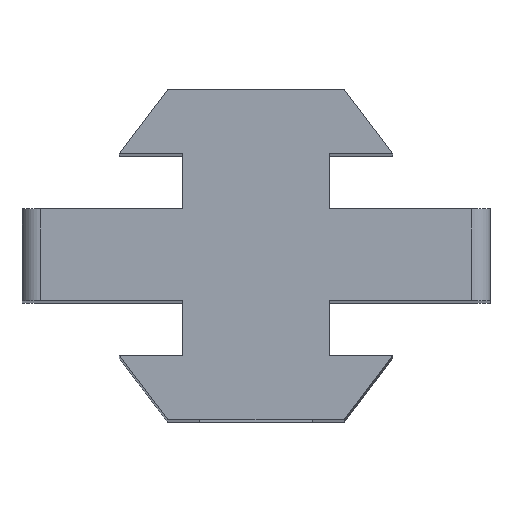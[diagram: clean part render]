
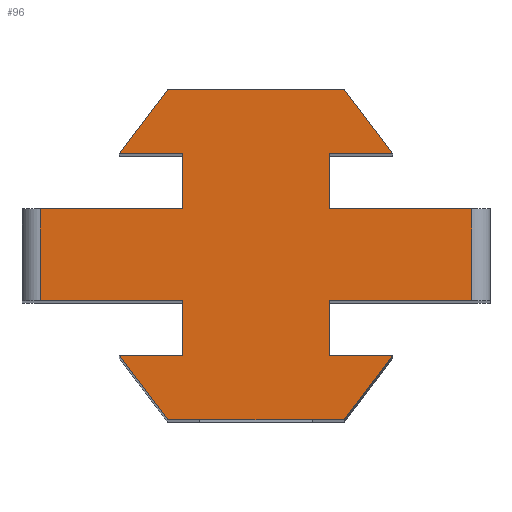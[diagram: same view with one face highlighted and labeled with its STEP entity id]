
A CAD part, top view. The second image highlights one B-rep face of the part: STEP entity #96.
In plain terms, the highlighted planar face has unit normal (0, 0, 1).
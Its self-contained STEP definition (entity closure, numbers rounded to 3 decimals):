
#12 = VECTOR ( 'NONE', #1242, 1000. ) ;
#19 = CARTESIAN_POINT ( 'NONE',  ( 7.45, 5.5, 40. ) ) ;
#21 = LINE ( 'NONE', #453, #1348 ) ;
#26 = EDGE_CURVE ( 'NONE', #768, #1747, #753, .T. ) ;
#30 = LINE ( 'NONE', #833, #1155 ) ;
#33 = DIRECTION ( 'NONE',  ( -1., 0., 0. ) ) ;
#37 = EDGE_CURVE ( 'NONE', #1712, #416, #1532, .T. ) ;
#55 = CARTESIAN_POINT ( 'NONE',  ( -7.45, 5.5, 40. ) ) ;
#69 = LINE ( 'NONE', #1160, #1058 ) ;
#73 = AXIS2_PLACEMENT_3D ( 'NONE', #1281, #641, #1881 ) ;
#74 = CARTESIAN_POINT ( 'NONE',  ( 7.45, -5.5, 40. ) ) ;
#96 = ADVANCED_FACE ( 'NONE', ( #1758 ), #497, .F. ) ;
#105 = CARTESIAN_POINT ( 'NONE',  ( 4., -5.5, 40. ) ) ;
#114 = VECTOR ( 'NONE', #386, 1000. ) ;
#125 = VERTEX_POINT ( 'NONE', #969 ) ;
#136 = VECTOR ( 'NONE', #1258, 1000. ) ;
#146 = CARTESIAN_POINT ( 'NONE',  ( -4., -2.5, 40. ) ) ;
#154 = EDGE_CURVE ( 'NONE', #920, #685, #1580, .T. ) ;
#172 = VECTOR ( 'NONE', #1413, 1000. ) ;
#191 = CARTESIAN_POINT ( 'NONE',  ( -4., 5.5, 40. ) ) ;
#193 = CARTESIAN_POINT ( 'NONE',  ( 4., 5.5, 40. ) ) ;
#200 = EDGE_CURVE ( 'NONE', #1941, #1712, #1094, .T. ) ;
#202 = DIRECTION ( 'NONE',  ( -0.604, -0.797, 0. ) ) ;
#216 = CARTESIAN_POINT ( 'NONE',  ( -11.75, -2.5, 40. ) ) ;
#217 = ORIENTED_EDGE ( 'NONE', *, *, #26, .T. ) ;
#228 = EDGE_LOOP ( 'NONE', ( #1205, #1114, #290, #1507, #279, #1791, #361, #1970, #739, #1283, #1134, #217, #829, #1631, #480, #1656, #1702, #410, #870, #1775 ) ) ;
#279 = ORIENTED_EDGE ( 'NONE', *, *, #582, .T. ) ;
#290 = ORIENTED_EDGE ( 'NONE', *, *, #1178, .T. ) ;
#300 = CARTESIAN_POINT ( 'NONE',  ( 4., 5.5, 40. ) ) ;
#332 = VECTOR ( 'NONE', #369, 1000. ) ;
#343 = CARTESIAN_POINT ( 'NONE',  ( 11.75, 2.5, 40. ) ) ;
#361 = ORIENTED_EDGE ( 'NONE', *, *, #37, .T. ) ;
#366 = CARTESIAN_POINT ( 'NONE',  ( -4.8, -9., 40. ) ) ;
#367 = EDGE_CURVE ( 'NONE', #1062, #1866, #1688, .T. ) ;
#369 = DIRECTION ( 'NONE',  ( 0., -1., 0. ) ) ;
#370 = CARTESIAN_POINT ( 'NONE',  ( 4., -2.5, 40. ) ) ;
#386 = DIRECTION ( 'NONE',  ( 1., 0., 0. ) ) ;
#410 = ORIENTED_EDGE ( 'NONE', *, *, #367, .T. ) ;
#416 = VERTEX_POINT ( 'NONE', #1200 ) ;
#420 = VERTEX_POINT ( 'NONE', #459 ) ;
#429 = DIRECTION ( 'NONE',  ( 0.604, 0.797, 0. ) ) ;
#439 = CARTESIAN_POINT ( 'NONE',  ( 7.45, 5.5, 40. ) ) ;
#453 = CARTESIAN_POINT ( 'NONE',  ( 11.75, 0., 40. ) ) ;
#459 = CARTESIAN_POINT ( 'NONE',  ( -4.8, -9., 40. ) ) ;
#476 = CARTESIAN_POINT ( 'NONE',  ( 11.75, -2.5, 40. ) ) ;
#480 = ORIENTED_EDGE ( 'NONE', *, *, #1860, .T. ) ;
#493 = VECTOR ( 'NONE', #1228, 1000. ) ;
#497 = PLANE ( 'NONE',  #73 ) ;
#501 = VERTEX_POINT ( 'NONE', #1602 ) ;
#517 = EDGE_CURVE ( 'NONE', #1156, #420, #1127, .T. ) ;
#544 = EDGE_CURVE ( 'NONE', #501, #1067, #1289, .T. ) ;
#550 = LINE ( 'NONE', #74, #1672 ) ;
#582 = EDGE_CURVE ( 'NONE', #1820, #1941, #1424, .T. ) ;
#592 = DIRECTION ( 'NONE',  ( -1., 0., 0. ) ) ;
#611 = LINE ( 'NONE', #1372, #12 ) ;
#614 = CARTESIAN_POINT ( 'NONE',  ( -11.75, 0., 40. ) ) ;
#619 = CARTESIAN_POINT ( 'NONE',  ( 4.8, -9., 40. ) ) ;
#621 = DIRECTION ( 'NONE',  ( 0., -1., 0. ) ) ;
#641 = DIRECTION ( 'NONE',  ( 0., 0., -1. ) ) ;
#642 = DIRECTION ( 'NONE',  ( 0., 1., 0. ) ) ;
#685 = VERTEX_POINT ( 'NONE', #1362 ) ;
#717 = LINE ( 'NONE', #1670, #1706 ) ;
#739 = ORIENTED_EDGE ( 'NONE', *, *, #1799, .T. ) ;
#745 = VERTEX_POINT ( 'NONE', #476 ) ;
#753 = LINE ( 'NONE', #614, #919 ) ;
#762 = EDGE_CURVE ( 'NONE', #1760, #745, #611, .T. ) ;
#767 = CARTESIAN_POINT ( 'NONE',  ( 4., -5.5, 40. ) ) ;
#768 = VERTEX_POINT ( 'NONE', #2011 ) ;
#769 = DIRECTION ( 'NONE',  ( 1., 0., 0. ) ) ;
#776 = LINE ( 'NONE', #942, #1640 ) ;
#811 = EDGE_CURVE ( 'NONE', #125, #1820, #1384, .T. ) ;
#829 = ORIENTED_EDGE ( 'NONE', *, *, #1256, .T. ) ;
#833 = CARTESIAN_POINT ( 'NONE',  ( -4.8, 9., 40. ) ) ;
#858 = CARTESIAN_POINT ( 'NONE',  ( 4.8, -9., 40. ) ) ;
#859 = CARTESIAN_POINT ( 'NONE',  ( 4.8, -9., 40. ) ) ;
#870 = ORIENTED_EDGE ( 'NONE', *, *, #914, .T. ) ;
#873 = VERTEX_POINT ( 'NONE', #343 ) ;
#910 = DIRECTION ( 'NONE',  ( -1., 0., 0. ) ) ;
#914 = EDGE_CURVE ( 'NONE', #1866, #1481, #550, .T. ) ;
#919 = VECTOR ( 'NONE', #621, 1000. ) ;
#920 = VERTEX_POINT ( 'NONE', #1940 ) ;
#942 = CARTESIAN_POINT ( 'NONE',  ( 4., 2.5, 40. ) ) ;
#953 = VECTOR ( 'NONE', #1406, 1000. ) ;
#958 = CARTESIAN_POINT ( 'NONE',  ( 4.8, 9., 40. ) ) ;
#969 = CARTESIAN_POINT ( 'NONE',  ( 4., 2.5, 40. ) ) ;
#1000 = CARTESIAN_POINT ( 'NONE',  ( 4.8, 9., 40. ) ) ;
#1053 = VECTOR ( 'NONE', #1246, 1000. ) ;
#1058 = VECTOR ( 'NONE', #1891, 1000. ) ;
#1062 = VERTEX_POINT ( 'NONE', #859 ) ;
#1065 = LINE ( 'NONE', #1683, #1568 ) ;
#1067 = VERTEX_POINT ( 'NONE', #1797 ) ;
#1094 = LINE ( 'NONE', #958, #1765 ) ;
#1097 = CARTESIAN_POINT ( 'NONE',  ( -7.45, -5.5, 40. ) ) ;
#1107 = EDGE_CURVE ( 'NONE', #1067, #768, #1065, .T. ) ;
#1114 = ORIENTED_EDGE ( 'NONE', *, *, #1661, .T. ) ;
#1127 = LINE ( 'NONE', #366, #953 ) ;
#1132 = LINE ( 'NONE', #858, #114 ) ;
#1134 = ORIENTED_EDGE ( 'NONE', *, *, #1107, .T. ) ;
#1155 = VECTOR ( 'NONE', #202, 1000. ) ;
#1156 = VERTEX_POINT ( 'NONE', #1097 ) ;
#1160 = CARTESIAN_POINT ( 'NONE',  ( -7.45, 5.5, 40. ) ) ;
#1178 = EDGE_CURVE ( 'NONE', #873, #125, #776, .T. ) ;
#1200 = CARTESIAN_POINT ( 'NONE',  ( -4.8, 9., 40. ) ) ;
#1205 = ORIENTED_EDGE ( 'NONE', *, *, #762, .T. ) ;
#1228 = DIRECTION ( 'NONE',  ( -1., 0., 0. ) ) ;
#1242 = DIRECTION ( 'NONE',  ( 1., 0., 0. ) ) ;
#1246 = DIRECTION ( 'NONE',  ( 0., -1., 0. ) ) ;
#1256 = EDGE_CURVE ( 'NONE', #1747, #920, #1693, .T. ) ;
#1258 = DIRECTION ( 'NONE',  ( 1., 0., 0. ) ) ;
#1281 = CARTESIAN_POINT ( 'NONE',  ( 0., 0., 40. ) ) ;
#1283 = ORIENTED_EDGE ( 'NONE', *, *, #544, .T. ) ;
#1289 = LINE ( 'NONE', #191, #1053 ) ;
#1305 = DIRECTION ( 'NONE',  ( -1., 0., 0. ) ) ;
#1307 = VERTEX_POINT ( 'NONE', #55 ) ;
#1321 = EDGE_CURVE ( 'NONE', #420, #1062, #1132, .T. ) ;
#1348 = VECTOR ( 'NONE', #642, 1000. ) ;
#1362 = CARTESIAN_POINT ( 'NONE',  ( -4., -5.5, 40. ) ) ;
#1372 = CARTESIAN_POINT ( 'NONE',  ( 4., -2.5, 40. ) ) ;
#1384 = LINE ( 'NONE', #300, #172 ) ;
#1406 = DIRECTION ( 'NONE',  ( 0.604, -0.797, 0. ) ) ;
#1413 = DIRECTION ( 'NONE',  ( 0., 1., 0. ) ) ;
#1424 = LINE ( 'NONE', #19, #136 ) ;
#1477 = CARTESIAN_POINT ( 'NONE',  ( 7.45, -5.5, 40. ) ) ;
#1481 = VERTEX_POINT ( 'NONE', #105 ) ;
#1507 = ORIENTED_EDGE ( 'NONE', *, *, #811, .T. ) ;
#1532 = LINE ( 'NONE', #2006, #493 ) ;
#1568 = VECTOR ( 'NONE', #910, 1000. ) ;
#1580 = LINE ( 'NONE', #1593, #332 ) ;
#1593 = CARTESIAN_POINT ( 'NONE',  ( -4., -5.5, 40. ) ) ;
#1602 = CARTESIAN_POINT ( 'NONE',  ( -4., 5.5, 40. ) ) ;
#1631 = ORIENTED_EDGE ( 'NONE', *, *, #154, .T. ) ;
#1633 = EDGE_CURVE ( 'NONE', #1481, #1760, #1719, .T. ) ;
#1640 = VECTOR ( 'NONE', #33, 1000. ) ;
#1656 = ORIENTED_EDGE ( 'NONE', *, *, #517, .T. ) ;
#1659 = DIRECTION ( 'NONE',  ( -0.604, 0.797, 0. ) ) ;
#1661 = EDGE_CURVE ( 'NONE', #745, #873, #21, .T. ) ;
#1668 = VECTOR ( 'NONE', #429, 1000. ) ;
#1670 = CARTESIAN_POINT ( 'NONE',  ( -7.45, -5.5, 40. ) ) ;
#1672 = VECTOR ( 'NONE', #1305, 1000. ) ;
#1683 = CARTESIAN_POINT ( 'NONE',  ( -4., 2.5, 40. ) ) ;
#1688 = LINE ( 'NONE', #619, #1668 ) ;
#1693 = LINE ( 'NONE', #146, #1967 ) ;
#1699 = DIRECTION ( 'NONE',  ( 0., 1., 0. ) ) ;
#1702 = ORIENTED_EDGE ( 'NONE', *, *, #1321, .T. ) ;
#1706 = VECTOR ( 'NONE', #592, 1000. ) ;
#1712 = VERTEX_POINT ( 'NONE', #1000 ) ;
#1719 = LINE ( 'NONE', #767, #1969 ) ;
#1747 = VERTEX_POINT ( 'NONE', #216 ) ;
#1758 = FACE_OUTER_BOUND ( 'NONE', #228, .T. ) ;
#1760 = VERTEX_POINT ( 'NONE', #370 ) ;
#1765 = VECTOR ( 'NONE', #1659, 1000. ) ;
#1775 = ORIENTED_EDGE ( 'NONE', *, *, #1633, .T. ) ;
#1791 = ORIENTED_EDGE ( 'NONE', *, *, #200, .T. ) ;
#1797 = CARTESIAN_POINT ( 'NONE',  ( -4., 2.5, 40. ) ) ;
#1799 = EDGE_CURVE ( 'NONE', #1307, #501, #69, .T. ) ;
#1817 = EDGE_CURVE ( 'NONE', #416, #1307, #30, .T. ) ;
#1820 = VERTEX_POINT ( 'NONE', #193 ) ;
#1860 = EDGE_CURVE ( 'NONE', #685, #1156, #717, .T. ) ;
#1866 = VERTEX_POINT ( 'NONE', #1477 ) ;
#1881 = DIRECTION ( 'NONE',  ( -1., 0., 0. ) ) ;
#1891 = DIRECTION ( 'NONE',  ( 1., 0., 0. ) ) ;
#1940 = CARTESIAN_POINT ( 'NONE',  ( -4., -2.5, 40. ) ) ;
#1941 = VERTEX_POINT ( 'NONE', #439 ) ;
#1967 = VECTOR ( 'NONE', #769, 1000. ) ;
#1969 = VECTOR ( 'NONE', #1699, 1000. ) ;
#1970 = ORIENTED_EDGE ( 'NONE', *, *, #1817, .T. ) ;
#2006 = CARTESIAN_POINT ( 'NONE',  ( 4.8, 9., 40. ) ) ;
#2011 = CARTESIAN_POINT ( 'NONE',  ( -11.75, 2.5, 40. ) ) ;
